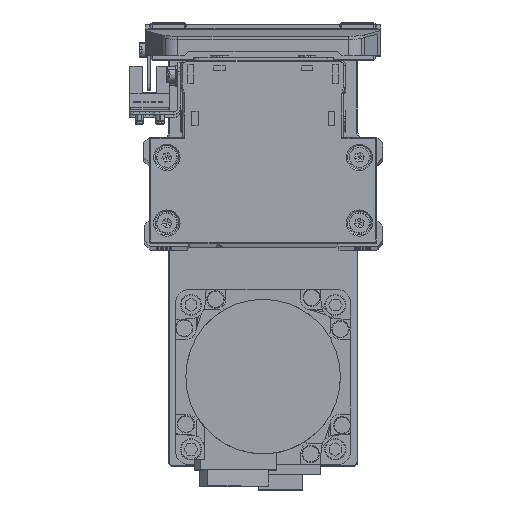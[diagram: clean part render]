
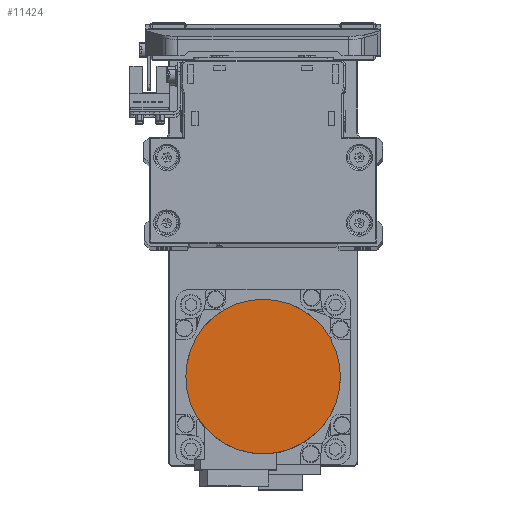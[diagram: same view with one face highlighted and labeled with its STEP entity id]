
A CAD part, top view. The second image highlights one B-rep face of the part: STEP entity #11424.
In plain terms, the highlighted planar face has unit normal (0, 0, 1) as drawn and (0, 0, -1) by its records, which use the part's own axes.
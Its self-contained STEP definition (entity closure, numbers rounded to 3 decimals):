
#921 = AXIS2_PLACEMENT_3D ( 'NONE', #7170, #19819, #32448 ) ;
#1298 = CARTESIAN_POINT ( 'NONE',  ( 26.5, 0., -109.7 ) ) ;
#1832 = PLANE ( 'NONE',  #4497 ) ;
#4497 = AXIS2_PLACEMENT_3D ( 'NONE', #14492, #27136, #39783 ) ;
#7170 = CARTESIAN_POINT ( 'NONE',  ( 0., 0., -109.7 ) ) ;
#11424 = ADVANCED_FACE ( 'NONE', ( #30229 ), #1832, .F. ) ;
#13226 = CARTESIAN_POINT ( 'NONE',  ( -26.5, 0., -109.7 ) ) ;
#14492 = CARTESIAN_POINT ( 'NONE',  ( 0., 0., -109.7 ) ) ;
#15473 = CARTESIAN_POINT ( 'NONE',  ( 0., 0., -109.7 ) ) ;
#15547 = EDGE_CURVE ( 'NONE', #35343, #33060, #18816, .T. ) ;
#16023 = EDGE_LOOP ( 'NONE', ( #25935, #25135 ) ) ;
#18816 = CIRCLE ( 'NONE', #921, 26.5 ) ;
#19559 = AXIS2_PLACEMENT_3D ( 'NONE', #15473, #28107, #40766 ) ;
#19819 = DIRECTION ( 'NONE',  ( 0., 0., 1. ) ) ;
#25135 = ORIENTED_EDGE ( 'NONE', *, *, #15547, .F. ) ;
#25210 = EDGE_CURVE ( 'NONE', #33060, #35343, #37431, .T. ) ;
#25935 = ORIENTED_EDGE ( 'NONE', *, *, #25210, .F. ) ;
#27136 = DIRECTION ( 'NONE',  ( 0., 0., 1. ) ) ;
#28107 = DIRECTION ( 'NONE',  ( 0., 0., 1. ) ) ;
#30229 = FACE_OUTER_BOUND ( 'NONE', #16023, .T. ) ;
#32448 = DIRECTION ( 'NONE',  ( 1., 0., 0. ) ) ;
#33060 = VERTEX_POINT ( 'NONE', #13226 ) ;
#35343 = VERTEX_POINT ( 'NONE', #1298 ) ;
#37431 = CIRCLE ( 'NONE', #19559, 26.5 ) ;
#39783 = DIRECTION ( 'NONE',  ( 1., 0., 0. ) ) ;
#40766 = DIRECTION ( 'NONE',  ( -1., 0., 0. ) ) ;
